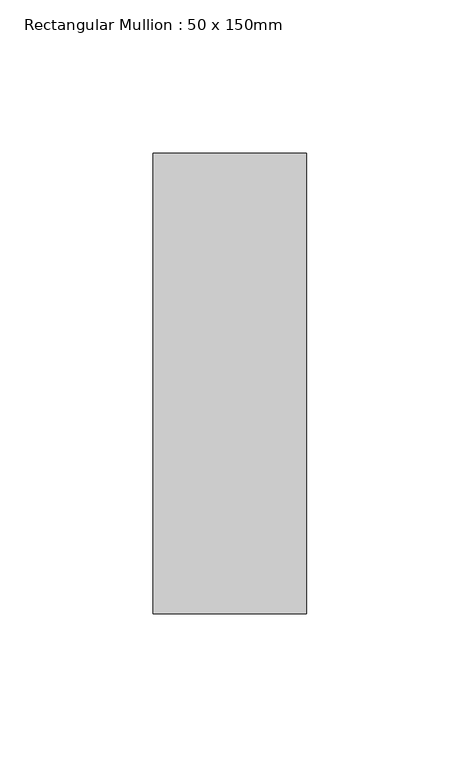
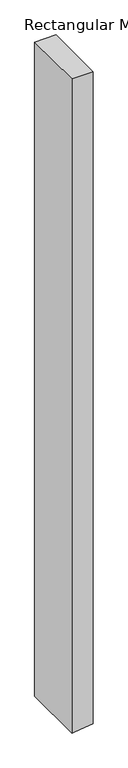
"""IFC4 building model written with IfcOpenShell, lengths in millimetres: member geometry, Rectangular Mullion : 50 x 150mm."""

from ifc_helpers import new_model, si_unit, frame, origin, place, context, project, spatial, polyline, outline, extrude, source, transform, mapped, element, save


def rectangular_mullion_50_x_150mm_17a88a16(model_context):
    return source(origin(), model_context, "Body", "SweptSolid", [
        extrude(outline(polyline([(0.0, 25.0), (0.0, -25.0), (-1613.6488444, -25.0), (-1611.6380773, -5.0022633), (-1608.6213577, 25.0), (0.0, 25.0)])), frame((0.0, -75.0, 0.0), z_axis=(0.0, 1.0, 0.0), x_axis=(0.0, 0.0, 1.0)), (0.0, 0.0, 1.0), 150.0),
    ])


if __name__ == "__main__":
    model = new_model("IFC4")
    model_context = context("Model", 3, world=origin())
    ifc_project = project(units=[si_unit("LENGTHUNIT", "METRE", prefix="MILLI")], contexts=[model_context])
    site = spatial("IfcSite", under=ifc_project)
    building = spatial("IfcBuilding", under=site)
    placement = place(None, origin())
    rectangular_mullion_50_x_150mm_shape = rectangular_mullion_50_x_150mm_17a88a16(model_context)
    element("IfcMember", 1, ObjectType="Rectangular Mullion : 50 x 150mm", at=placement, inside=building, context=model_context, shape_type="MappedRepresentation", body=[
        mapped(rectangular_mullion_50_x_150mm_shape, transform((0.0, 0.0, 0.0), x_axis=(1.0, 0.0, 0.0), y_axis=(0.0, 1.0, 0.0), z_axis=(0.0, 0.0, 1.0))),
    ])
    save(model, "model.ifc")
